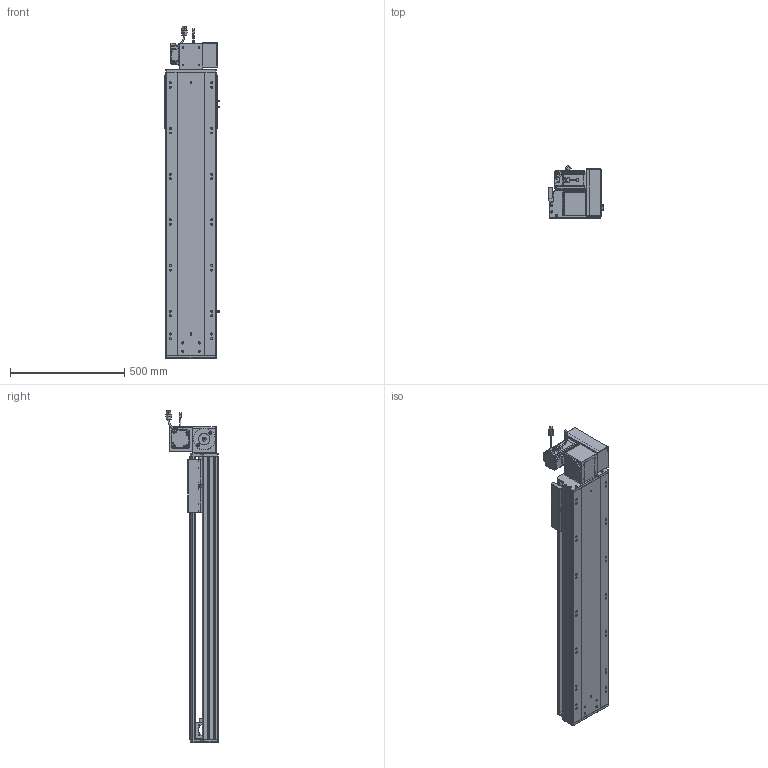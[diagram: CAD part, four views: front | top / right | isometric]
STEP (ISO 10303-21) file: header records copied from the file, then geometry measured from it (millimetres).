
FILE_DESCRIPTION (( 'STEP AP203' ), '1' );
FILE_NAME ('RY220-T-300-UR.SLDASM_900.step', '2022-07-25T08:43:12', ( '' ), ( '' ), 'SwSTEP 2.0', 'SolidWorks 2016', '' );
FILE_SCHEMA (( 'CONFIG_CONTROL_DESIGN' ));
Length unit declared in the file: millimetre
Products named in the file (14): RY220圉猾敕々湍臏賑輸; RY220-俋离672覜茼んえ; RY220-T-300-UR.SLDASM_900; 覜茼ん672; 滅袉蝶18-15; RY220翋肮祭謫裔啣; RY220-T菁釱-300_900; RY220-T-湍謫欶(鍼踢); RY220-同步轮副支撑座6304×2; 怢湛750W_ECMA-CX0807ES; 110A-T-肮祭謫釱傷裔; RY220-T-300-奻裔啣_900; RY220-T-蛌殏萇儂假蚾啣(750W); RY220翋肮祭謫釱
Assembly tree (18 placements, depth 2):
  RY220-T-300-UR.SLDASM_900
    RY220-T菁釱-300_900
    RY220翋肮祭謫釱
    覜茼ん672  x3
    RY220圉猾敕々湍臏賑輸
    RY220-T-300-奻裔啣_900
    RY220-俋离672覜茼んえ
    滅袉蝶18-15  x3
    RY220翋肮祭謫裔啣  x2
    110A-T-肮祭謫釱傷裔
    怢湛750W_ECMA-CX0807ES
    RY220-T-湍謫欶(鍼踢)
    RY220-T-蛌殏萇儂假蚾啣(750W)
    RY220-同步轮副支撑座6304×2
Bounding box: 238.7 x 231.74 x 1453.27 mm (x, y, z)
Volume: 11611601.6 mm3; surface area: 3369649.4 mm2
Topology: 19 solids, 19 shells, 2608 faces, 7195 edges, 4570 vertices
Faces by surface type: cylinder 1216, plane 1069, cone 241, bspline 56, sphere 16, torus 10
Entity records: 86771 total; most frequent: CARTESIAN_POINT 24785, ORIENTED_EDGE 12890, DIRECTION 12156, EDGE_CURVE 6445, AXIS2_PLACEMENT_3D 4290, VERTEX_POINT 4194, LINE 3576, VECTOR 3576
